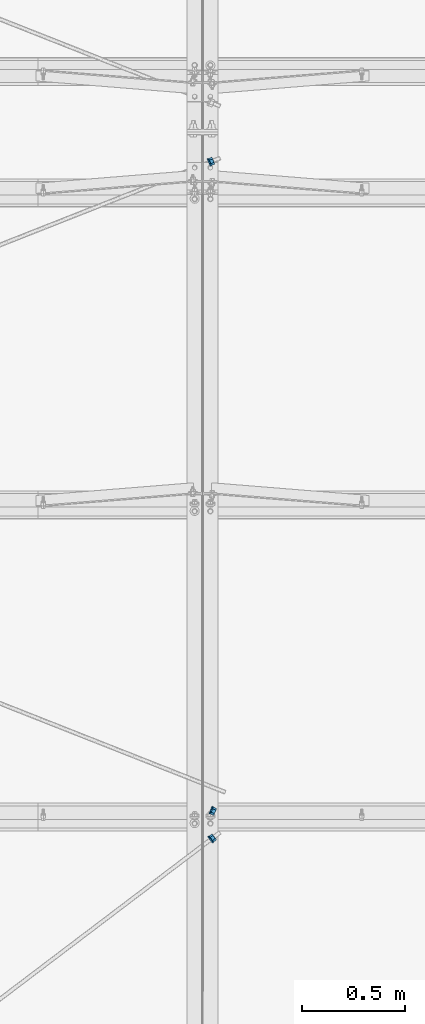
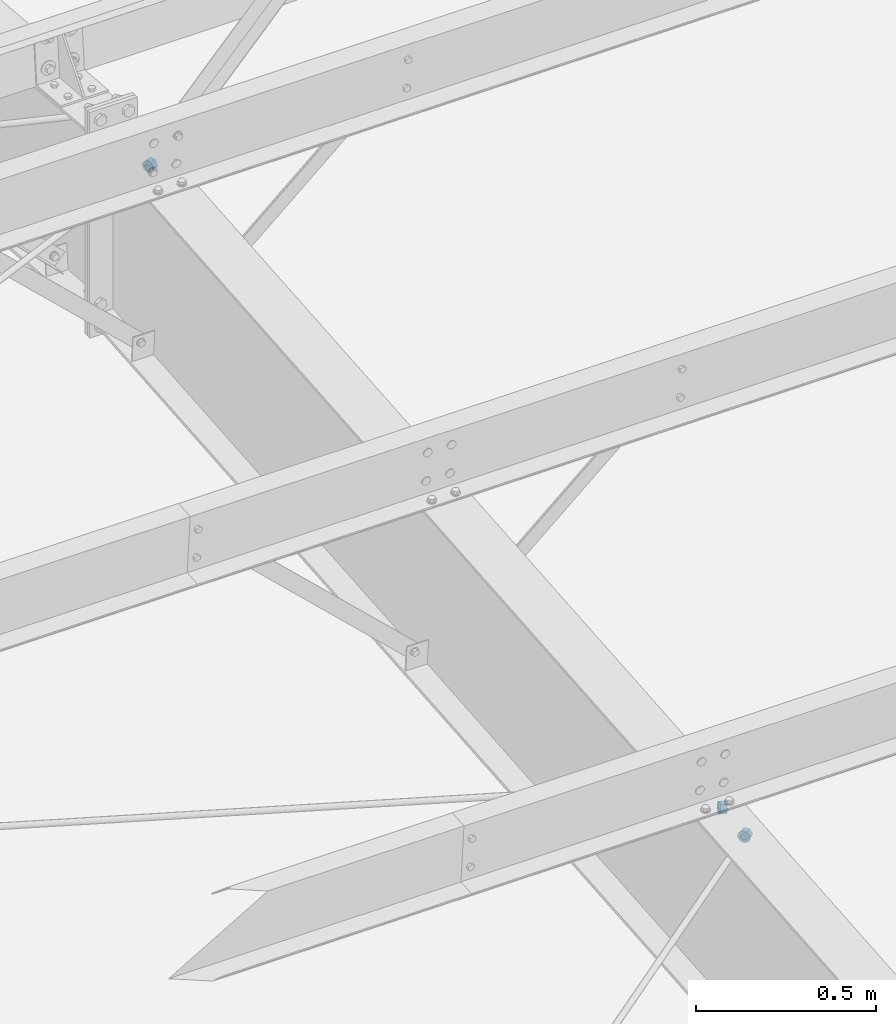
# One storey, part 30 of 185: 6 beams, 6 elements without a shape of their own.
"""IFC2X3 building model written with IfcOpenShell, lengths in millimetres."""

from ifc_helpers import new_model, si_unit, frame, origin_with_axes, place, context, subcontext, project, spatial, polyline, outline, extrude, material, type_object, element, aggregate, save


model = new_model("IFC2X3")

# Units and contexts
model_context = context("Model", 3, precision=1e-05, world=origin_with_axes())
body_context = subcontext(model_context, "Body", "Model", "MODEL_VIEW")
ifc_project = project(units=[si_unit("LENGTHUNIT", "METRE", prefix="MILLI"), si_unit("AREAUNIT", "SQUARE_METRE"), si_unit("VOLUMEUNIT", "CUBIC_METRE"), si_unit("MASSUNIT", "GRAM", prefix="KILO"), si_unit("TIMEUNIT", "SECOND"), si_unit("PLANEANGLEUNIT", "RADIAN"), si_unit("SOLIDANGLEUNIT", "STERADIAN"), si_unit("THERMODYNAMICTEMPERATUREUNIT", "DEGREE_CELSIUS"), si_unit("LUMINOUSINTENSITYUNIT", "LUMEN")], contexts=[model_context])

# Site, building, storey
site_placement = place(None, origin_with_axes())
site = spatial("IfcSite", under=ifc_project, at=site_placement, Name="Undefined", CompositionType="ELEMENT")
building_placement = place(site_placement, origin_with_axes())
building = spatial("IfcBuilding", under=site, at=building_placement, Name="Undefined", CompositionType="ELEMENT")
storey_placement = place(building_placement, origin_with_axes())
storey = spatial("IfcBuildingStorey", under=building, at=storey_placement, Name="Undefined", CompositionType="ELEMENT", Elevation=0.0)

# Assembly, beam
assembly_1_placement = place(storey_placement, origin_with_axes())
assembly_1 = element("IfcElementAssembly", 1, at=assembly_1_placement, inside=storey, Name="Steel Assembly", AssemblyPlace="NOTDEFINED", PredefinedType="RIGID_FRAME")
ifc_material = material(Name="STEEL/55")
beam_type_1 = type_object("IfcBeamType", Name="3/4_HEAVY_HEX_NUT", PredefinedType="NOTDEFINED")
beam_1_placement = place(assembly_1_placement, frame((14903.0492786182, 12702.4217448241, 6891.67697402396), z_axis=(-0.0294198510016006, 0.0114666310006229, -0.999501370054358), x_axis=(0.924919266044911, -0.378850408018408, -0.0315708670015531)))
beam_1 = element("IfcBeam", 2, at=beam_1_placement, type_object=beam_type_1, material=ifc_material, Name="3/4 H HEX NUT A563", ObjectType="3/4_HEAVY_HEX_NUT", context=body_context, shape_type="SweptSolid", body=[
    extrude(outline(polyline([(9.13000011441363, -15.810000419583), (-9.13000011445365, -15.810000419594), (-18.2600002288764, 1.54614099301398e-11), (-9.13000011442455, 15.8100004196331), (9.13000011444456, 15.8100004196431), (18.2600002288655, 3.36513039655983e-11), (9.13000011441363, -15.810000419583)]), holes=[polyline([(-8.06850066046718, 6.43441456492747), (-10.061255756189, 2.29641597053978), (-10.0612557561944, -2.29641597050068), (-8.06850066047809, -6.43441456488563), (-4.47768005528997, -9.29799844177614), (-1.09139364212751e-11, -10.3199996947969), (4.47768005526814, -9.29799844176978), (8.0685006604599, -6.43441456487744), (10.0612557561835, -2.29641597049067), (10.0612557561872, 2.2964159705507), (8.06850066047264, 6.43441456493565), (4.47768005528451, 9.29799844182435), (7.27595761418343e-12, 10.319999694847), (-4.47768005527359, 9.2979984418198), (-8.06850066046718, 6.43441456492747)])]), frame((19.0500000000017, 0.0, 2.58175642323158e-19), z_axis=(-1.0, 0.0, 0.0), x_axis=(0.0, -1.0, 0.0)), (0.0, 0.0, 1.0), 19.0),
])
aggregate(assembly_1, [beam_1])

assembly_2_placement = place(storey_placement, origin_with_axes())
assembly_2 = element("IfcElementAssembly", 3, at=assembly_2_placement, inside=storey, Name="Steel Assembly", AssemblyPlace="NOTDEFINED", PredefinedType="RIGID_FRAME")
beam_2_placement = place(assembly_2_placement, frame((14894.2394238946, 15856.079338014, 7154.48177069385), z_axis=(-0.0292556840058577, -0.011867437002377, 0.999501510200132), x_axis=(0.92491926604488, 0.378850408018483, 0.0315708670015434)))
beam_2 = element("IfcBeam", 4, at=beam_2_placement, type_object=beam_type_1, material=ifc_material, Name="3/4 H HEX NUT A563", ObjectType="3/4_HEAVY_HEX_NUT", context=body_context, shape_type="SweptSolid", body=[
    extrude(outline(polyline([(9.13000011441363, -15.810000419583), (-9.13000011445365, -15.810000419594), (-18.2600002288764, 1.54614099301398e-11), (-9.13000011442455, 15.8100004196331), (9.13000011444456, 15.8100004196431), (18.2600002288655, 3.36513039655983e-11), (9.13000011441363, -15.810000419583)]), holes=[polyline([(-8.06850066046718, 6.43441456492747), (-10.061255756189, 2.29641597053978), (-10.0612557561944, -2.29641597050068), (-8.06850066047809, -6.43441456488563), (-4.47768005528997, -9.29799844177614), (-1.09139364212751e-11, -10.3199996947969), (4.47768005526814, -9.29799844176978), (8.0685006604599, -6.43441456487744), (10.0612557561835, -2.29641597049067), (10.0612557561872, 2.2964159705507), (8.06850066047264, 6.43441456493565), (4.47768005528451, 9.29799844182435), (7.27595761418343e-12, 10.319999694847), (-4.47768005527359, 9.2979984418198), (-8.06850066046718, 6.43441456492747)])]), frame((19.0500000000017, 0.0, 2.58175642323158e-19), z_axis=(-1.0, 0.0, 0.0), x_axis=(0.0, -1.0, 0.0)), (0.0, 0.0, 1.0), 19.0),
])
aggregate(assembly_2, [beam_2])

assembly_3_placement = place(storey_placement, origin_with_axes())
assembly_3 = element("IfcElementAssembly", 5, at=assembly_3_placement, inside=storey, Name="Steel Assembly", AssemblyPlace="NOTDEFINED", PredefinedType="RIGID_FRAME")
beam_3_placement = place(assembly_3_placement, frame((14900.7089449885, 12562.2463359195, 6879.99568677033), z_axis=(-0.0403834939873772, -0.0299076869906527, 0.998736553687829), x_axis=(0.796162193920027, 0.602993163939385, 0.0502494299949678)))
beam_3 = element("IfcBeam", 6, at=beam_3_placement, type_object=beam_type_1, material=ifc_material, Name="3/4 H HEX NUT A563", ObjectType="3/4_HEAVY_HEX_NUT", context=body_context, shape_type="SweptSolid", body=[
    extrude(outline(polyline([(9.13000011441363, -15.810000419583), (-9.13000011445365, -15.810000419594), (-18.2600002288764, 1.54614099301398e-11), (-9.13000011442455, 15.8100004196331), (9.13000011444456, 15.8100004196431), (18.2600002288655, 3.36513039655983e-11), (9.13000011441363, -15.810000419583)]), holes=[polyline([(-8.06850066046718, 6.43441456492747), (-10.061255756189, 2.29641597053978), (-10.0612557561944, -2.29641597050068), (-8.06850066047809, -6.43441456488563), (-4.47768005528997, -9.29799844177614), (-1.09139364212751e-11, -10.3199996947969), (4.47768005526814, -9.29799844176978), (8.0685006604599, -6.43441456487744), (10.0612557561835, -2.29641597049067), (10.0612557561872, 2.2964159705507), (8.06850066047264, 6.43441456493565), (4.47768005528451, 9.29799844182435), (7.27595761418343e-12, 10.319999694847), (-4.47768005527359, 9.2979984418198), (-8.06850066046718, 6.43441456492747)])]), frame((19.0500000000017, 0.0, 2.58175642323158e-19), z_axis=(-1.0, 0.0, 0.0), x_axis=(0.0, -1.0, 0.0)), (0.0, 0.0, 1.0), 19.0),
])
aggregate(assembly_3, [beam_3])

assembly_4_placement = place(storey_placement, origin_with_axes())
assembly_4 = element("IfcElementAssembly", 7, at=assembly_4_placement, inside=storey, Name="Steel Assembly", AssemblyPlace="NOTDEFINED", PredefinedType="RIGID_FRAME")
beam_type_2 = type_object("IfcBeamType", Name="3/4_WASHER", PredefinedType="NOTDEFINED")
beam_4_placement = place(assembly_4_placement, frame((14898.6443506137, 12704.2260198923, 6891.82733027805), z_axis=(-0.0294198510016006, 0.0114666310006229, -0.999501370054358), x_axis=(0.924919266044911, -0.378850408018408, -0.0315708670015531)))
beam_4 = element("IfcBeam", 8, at=beam_4_placement, type_object=beam_type_2, material=ifc_material, Name="3/4 WASHER F844", ObjectType="3/4_WASHER", context=body_context, shape_type="SweptSolid", body=[
    extrude(outline(polyline([(-11.6280845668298, -14.5811568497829), (-16.8030690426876, -8.09193156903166), (-18.649999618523, -4.54747350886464e-12), (-16.8030690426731, 8.09193156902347), (-11.6280845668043, 14.5811568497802), (-4.15001533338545, 18.1824051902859), (4.15001533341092, 18.1824051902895), (11.628084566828, 14.5811568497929), (16.8030690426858, 8.09193156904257), (18.6499996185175, 1.45519152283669e-11), (16.8030690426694, -8.09193156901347), (11.6280845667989, -14.5811568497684), (4.15001533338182, -18.182405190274), (-4.15001533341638, -18.1824051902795), (-11.6280845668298, -14.5811568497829)]), holes=[polyline([(-8.06850066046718, 6.43441456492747), (-10.061255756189, 2.29641597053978), (-10.0612557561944, -2.29641597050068), (-8.06850066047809, -6.43441456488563), (-4.47768005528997, -9.29799844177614), (-1.09139364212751e-11, -10.3199996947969), (4.47768005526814, -9.29799844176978), (8.0685006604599, -6.43441456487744), (10.0612557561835, -2.29641597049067), (10.0612557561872, 2.2964159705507), (8.06850066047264, 6.43441456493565), (4.47768005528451, 9.29799844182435), (7.27595761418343e-12, 10.319999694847), (-4.47768005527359, 9.2979984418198), (-8.06850066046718, 6.43441456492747)])]), frame((4.76250000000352, 2.6437185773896e-16, 5.6843418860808e-14), z_axis=(-1.0, 0.0, 0.0), x_axis=(0.0, -1.0, 0.0)), (0.0, 0.0, 1.0), 4.8),
])
aggregate(assembly_4, [beam_4])

assembly_5_placement = place(storey_placement, origin_with_axes())
assembly_5 = element("IfcElementAssembly", 9, at=assembly_5_placement, inside=storey, Name="Steel Assembly", AssemblyPlace="NOTDEFINED", PredefinedType="RIGID_FRAME")
beam_5_placement = place(assembly_5_placement, frame((14889.8344958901, 15854.2750629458, 7154.33141443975), z_axis=(-0.0292556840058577, -0.011867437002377, 0.999501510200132), x_axis=(0.92491926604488, 0.378850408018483, 0.0315708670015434)))
beam_5 = element("IfcBeam", 10, at=beam_5_placement, type_object=beam_type_2, material=ifc_material, Name="3/4 WASHER F844", ObjectType="3/4_WASHER", context=body_context, shape_type="SweptSolid", body=[
    extrude(outline(polyline([(-11.6280845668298, -14.5811568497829), (-16.8030690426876, -8.09193156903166), (-18.649999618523, -4.54747350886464e-12), (-16.8030690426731, 8.09193156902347), (-11.6280845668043, 14.5811568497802), (-4.15001533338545, 18.1824051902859), (4.15001533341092, 18.1824051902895), (11.628084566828, 14.5811568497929), (16.8030690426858, 8.09193156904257), (18.6499996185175, 1.45519152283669e-11), (16.8030690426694, -8.09193156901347), (11.6280845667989, -14.5811568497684), (4.15001533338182, -18.182405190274), (-4.15001533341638, -18.1824051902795), (-11.6280845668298, -14.5811568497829)]), holes=[polyline([(-8.06850066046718, 6.43441456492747), (-10.061255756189, 2.29641597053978), (-10.0612557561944, -2.29641597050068), (-8.06850066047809, -6.43441456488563), (-4.47768005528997, -9.29799844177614), (-1.09139364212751e-11, -10.3199996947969), (4.47768005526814, -9.29799844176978), (8.0685006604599, -6.43441456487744), (10.0612557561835, -2.29641597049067), (10.0612557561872, 2.2964159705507), (8.06850066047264, 6.43441456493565), (4.47768005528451, 9.29799844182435), (7.27595761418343e-12, 10.319999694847), (-4.47768005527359, 9.2979984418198), (-8.06850066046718, 6.43441456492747)])]), frame((4.76250000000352, 2.6437185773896e-16, 5.6843418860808e-14), z_axis=(-1.0, 0.0, 0.0), x_axis=(0.0, -1.0, 0.0)), (0.0, 0.0, 1.0), 4.8),
])
aggregate(assembly_5, [beam_5])

assembly_6_placement = place(storey_placement, origin_with_axes())
assembly_6 = element("IfcElementAssembly", 11, at=assembly_6_placement, inside=storey, Name="Steel Assembly", AssemblyPlace="NOTDEFINED", PredefinedType="RIGID_FRAME")
beam_6_placement = place(assembly_6_placement, frame((14896.91722254, 12559.3745809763, 6879.75637385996), z_axis=(-0.0403834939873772, -0.0299076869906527, 0.998736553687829), x_axis=(0.796162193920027, 0.602993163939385, 0.0502494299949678)))
beam_6 = element("IfcBeam", 12, at=beam_6_placement, type_object=beam_type_2, material=ifc_material, Name="3/4 WASHER F844", ObjectType="3/4_WASHER", context=body_context, shape_type="SweptSolid", body=[
    extrude(outline(polyline([(-11.6280845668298, -14.5811568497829), (-16.8030690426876, -8.09193156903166), (-18.649999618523, -4.54747350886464e-12), (-16.8030690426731, 8.09193156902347), (-11.6280845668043, 14.5811568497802), (-4.15001533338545, 18.1824051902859), (4.15001533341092, 18.1824051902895), (11.628084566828, 14.5811568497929), (16.8030690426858, 8.09193156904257), (18.6499996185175, 1.45519152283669e-11), (16.8030690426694, -8.09193156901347), (11.6280845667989, -14.5811568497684), (4.15001533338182, -18.182405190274), (-4.15001533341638, -18.1824051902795), (-11.6280845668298, -14.5811568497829)]), holes=[polyline([(-8.06850066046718, 6.43441456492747), (-10.061255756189, 2.29641597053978), (-10.0612557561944, -2.29641597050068), (-8.06850066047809, -6.43441456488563), (-4.47768005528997, -9.29799844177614), (-1.09139364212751e-11, -10.3199996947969), (4.47768005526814, -9.29799844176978), (8.0685006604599, -6.43441456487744), (10.0612557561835, -2.29641597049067), (10.0612557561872, 2.2964159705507), (8.06850066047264, 6.43441456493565), (4.47768005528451, 9.29799844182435), (7.27595761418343e-12, 10.319999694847), (-4.47768005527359, 9.2979984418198), (-8.06850066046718, 6.43441456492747)])]), frame((4.76250000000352, 2.6437185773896e-16, 5.6843418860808e-14), z_axis=(-1.0, 0.0, 0.0), x_axis=(0.0, -1.0, 0.0)), (0.0, 0.0, 1.0), 4.8),
])
aggregate(assembly_6, [beam_6])

save(model, "model.ifc")
